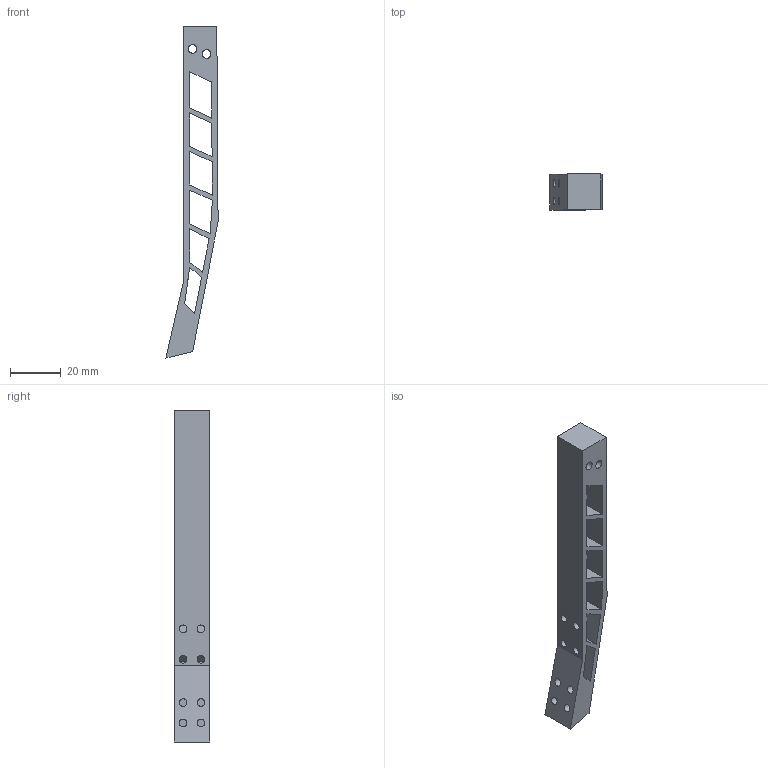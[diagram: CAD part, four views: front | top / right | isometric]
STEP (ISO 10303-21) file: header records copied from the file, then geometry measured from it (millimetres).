
FILE_DESCRIPTION(('Open CASCADE Model'),'2;1');
FILE_NAME('Open CASCADE Shape Model','2026-10-17T22:15:36',('Author'),( 'Open CASCADE'),'Open CASCADE STEP processor 7.9','Open CASCADE 7.9' ,'Unknown');
FILE_SCHEMA(('AUTOMOTIVE_DESIGN { 1 0 10303 214 1 1 1 1 }'));
Length unit declared in the file: millimetre
Products named in the file (1): Open CASCADE STEP translator 7.9 24
Bounding box: 20.5 x 14 x 130.5 mm (x, y, z)
Volume: 12644.4 mm3; surface area: 10051.1 mm2
Topology: 1 solids, 1 shells, 46 faces, 120 edges, 80 vertices
Faces by surface type: plane 36, cylinder 10
Full cylindrical faces by diameter (mm): 3 x8, 3.4 x2
Entity records: 3034 total; most frequent: CARTESIAN_POINT 733, DIRECTION 362, ORIENTED_EDGE 240, PCURVE 240, DEFINITIONAL_REPRESENTATION 240, LINE 218, VECTOR 218, EDGE_CURVE 120
